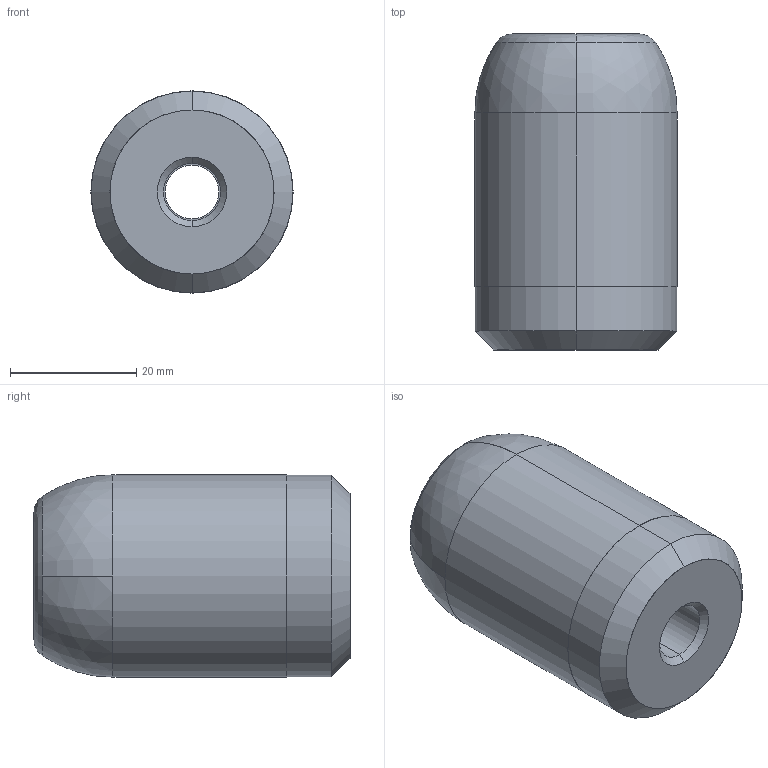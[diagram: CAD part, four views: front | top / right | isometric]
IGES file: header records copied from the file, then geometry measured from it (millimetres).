
Start section: START RECORD GO HERE.
Global section: file name: 700-32-50.igs; native system: DASSAULT SYSTEMES CATIA V5 R20 - www.3ds.com; preprocessor: CATIA Version 5 Release 20 ; author: Utente; organization: NB04-ASUS; date: 20201129.131625; units: millimetre
Bounding box: 32 x 50 x 32 mm (x, y, z)
Surface area: 7261.5 mm2 (no closed solid volume)
Topology: 0 solids, 0 shells, 24 faces, 100 edges, 100 vertices
Faces by surface type: revolution 20, plane 4
